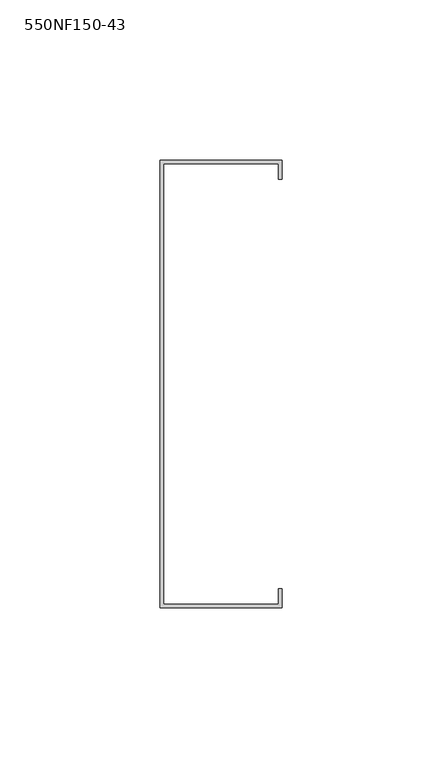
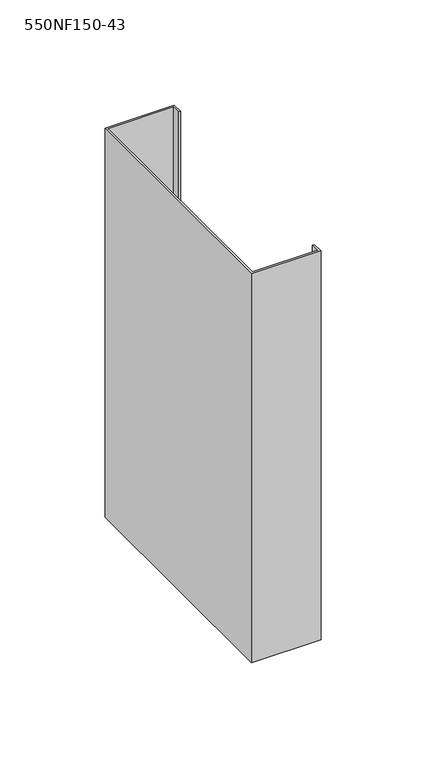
"""IFC4 building model written with IfcOpenShell, lengths in millimetres: column geometry, BIMSF-SSMA-S-Column : 550NF150-43."""

from ifc_helpers import new_model, si_unit, frame, origin, place, context, project, spatial, polyline, outline, extrude, source, transform, mapped, element, save


def column_550nf150_43_f0339cc5(model_context):
    return source(origin(), model_context, "Body", "SweptSolid", [
        extrude(outline(polyline([(-11.9977877, -80.5871249), (-11.9977877, 59.1128751), (26.1022123, 59.1128751), (26.1022123, 53.1879908), (24.952528, 53.1879908), (24.952528, 57.9631908), (-10.8481035, 57.9631908), (-10.8481035, -79.4374407), (24.952528, -79.4374407), (24.952528, -74.6622407), (26.1022123, -74.6622407), (26.1022123, -80.5871249), (-11.9977877, -80.5871249)])), frame((0.0, 0.0, 5525.3929688), z_axis=(0.0, 0.0, 1.0), x_axis=(1.0, 0.0, 0.0)), (0.0, 0.0, 1.0), 226.0332427),
    ])


if __name__ == "__main__":
    model = new_model("IFC4")
    model_context = context("Model", 3, world=origin())
    ifc_project = project(units=[si_unit("LENGTHUNIT", "METRE", prefix="MILLI")], contexts=[model_context])
    site = spatial("IfcSite", under=ifc_project)
    building = spatial("IfcBuilding", under=site)
    placement = place(None, origin())
    column_550nf150_43_shape = column_550nf150_43_f0339cc5(model_context)
    element("IfcColumn", 1, ObjectType="BIMSF-SSMA-S-Column : 550NF150-43", at=placement, inside=building, context=model_context, shape_type="MappedRepresentation", body=[
        mapped(column_550nf150_43_shape, transform((0.0, 0.0, 0.0), x_axis=(1.0, 0.0, 0.0), y_axis=(0.0, 1.0, 0.0), z_axis=(0.0, 0.0, 1.0))),
    ])
    save(model, "model.ifc")
